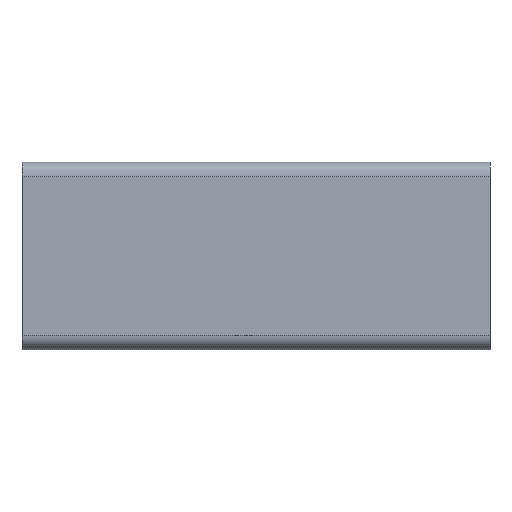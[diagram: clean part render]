
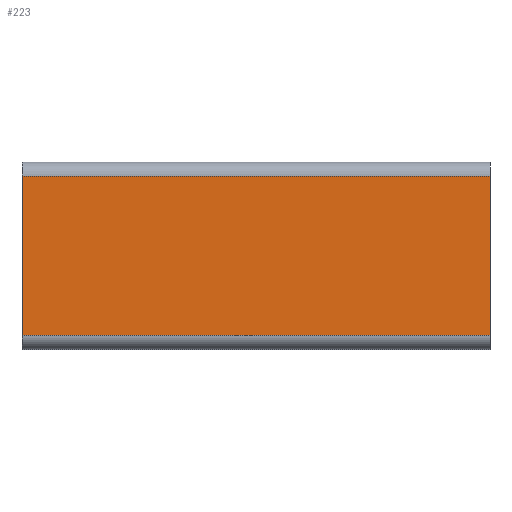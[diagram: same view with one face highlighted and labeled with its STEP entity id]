
A CAD part, top view. The second image highlights one B-rep face of the part: STEP entity #223.
In plain terms, the highlighted planar face has unit normal (0, 0, 1).
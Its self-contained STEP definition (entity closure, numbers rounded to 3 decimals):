
#223=ADVANCED_FACE('',(#498),#499,.F.);
#498=FACE_OUTER_BOUND('',#871,.T.);
#499=PLANE('',#872);
#871=EDGE_LOOP('',(#1347,#1348,#1349,#1350));
#872=AXIS2_PLACEMENT_3D('',#1351,#1352,#1353);
#1347=ORIENTED_EDGE('',*,*,#2465,.F.);
#1348=ORIENTED_EDGE('',*,*,#2460,.F.);
#1349=ORIENTED_EDGE('',*,*,#2454,.F.);
#1350=ORIENTED_EDGE('',*,*,#2466,.T.);
#1351=CARTESIAN_POINT('',(-49950.0,-1.5,20.));
#1352=DIRECTION('',(0.,0.,-1.0));
#1353=DIRECTION('',(0.,-1.0,0.));
#2454=EDGE_CURVE('',#3013,#3015,#3016,.T.);
#2460=EDGE_CURVE('',#3015,#3022,#3025,.T.);
#2465=EDGE_CURVE('',#3022,#3031,#3032,.T.);
#2466=EDGE_CURVE('',#3013,#3031,#3033,.T.);
#3013=VERTEX_POINT('',#3774);
#3015=VERTEX_POINT('',#3776);
#3016=LINE('',#3777,#3778);
#3022=VERTEX_POINT('',#3785);
#3025=LINE('',#3789,#3790);
#3031=VERTEX_POINT('',#3798);
#3032=LINE('',#3799,#3800);
#3033=LINE('',#3801,#3802);
#3774=CARTESIAN_POINT('',(0.0,-17.0,20.));
#3776=CARTESIAN_POINT('',(0.0,17.0,20.));
#3777=CARTESIAN_POINT('',(0.0,-1.5,20.));
#3778=VECTOR('',#4588,1.0);
#3785=CARTESIAN_POINT('',(100.,17.0,20.));
#3789=CARTESIAN_POINT('',(-49950.0,17.,20.));
#3790=VECTOR('',#4597,1.0);
#3798=CARTESIAN_POINT('',(100.,-17.0,20.));
#3799=CARTESIAN_POINT('',(100.,-1.5,20.));
#3800=VECTOR('',#4600,1.0);
#3801=CARTESIAN_POINT('',(-49950.0,-17.,20.));
#3802=VECTOR('',#4601,1.0);
#4588=DIRECTION('',(0.,1.0,0.));
#4597=DIRECTION('',(1.0,0.,0.0));
#4600=DIRECTION('',(0.,-1.0,0.));
#4601=DIRECTION('',(1.0,0.,0.0));
